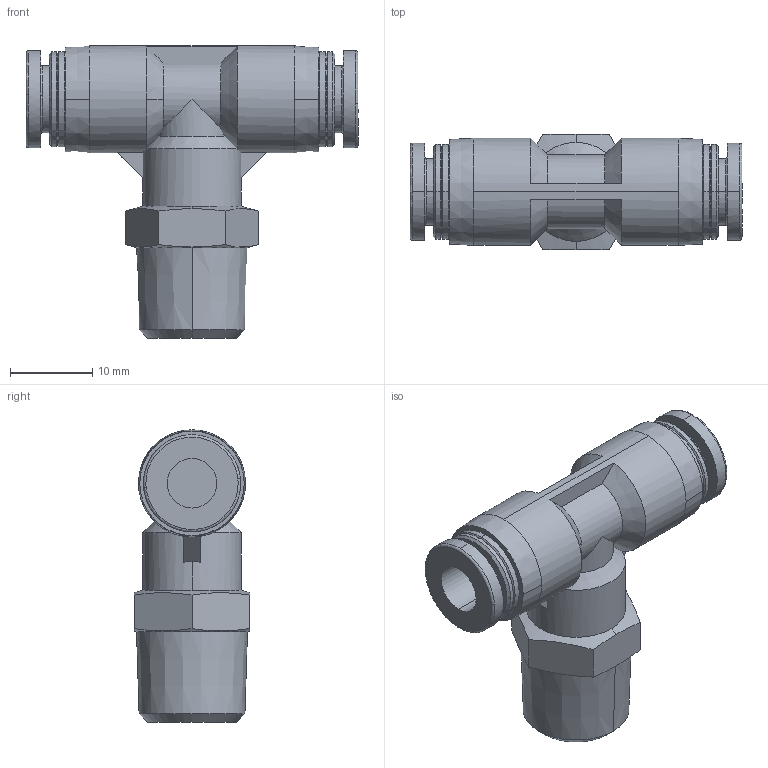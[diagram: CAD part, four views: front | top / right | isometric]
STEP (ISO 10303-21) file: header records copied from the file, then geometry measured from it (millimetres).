
FILE_DESCRIPTION (( 'STEP AP214' ), '1' );
FILE_NAME ('APT6-02.STEP', '2019-12-05T06:43:51', ( '微软用户' ), ( '微软中国' ), 'SwSTEP 2.0', 'SolidWorks 2016', '' );
FILE_SCHEMA (( 'AUTOMOTIVE_DESIGN' ));
Length unit declared in the file: millimetre
Products named in the file (1): APT6-02
Bounding box: 40.3 x 14 x 35.5 mm (x, y, z)
Volume: 6683.1 mm3; surface area: 3801.2 mm2
Topology: 1 solids, 1 shells, 105 faces, 277 edges, 182 vertices
Faces by surface type: cone 44, cylinder 28, plane 25, bspline 8
Entity records: 3725 total; most frequent: CARTESIAN_POINT 1135, ORIENTED_EDGE 554, DIRECTION 541, EDGE_CURVE 277, AXIS2_PLACEMENT_3D 228, VERTEX_POINT 182, CIRCLE 130, EDGE_LOOP 113
